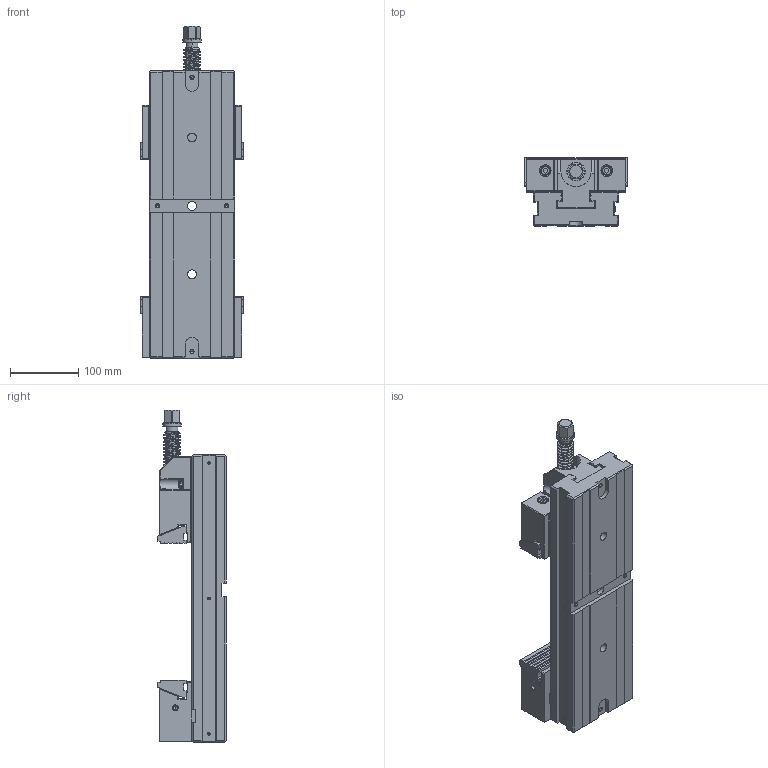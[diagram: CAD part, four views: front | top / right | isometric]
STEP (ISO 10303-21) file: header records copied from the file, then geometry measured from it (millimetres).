
FILE_DESCRIPTION((''),'2;1');
FILE_NAME('FG_VC_MODUL_MV200NP001_ASM','2026-02-26T16:22:47',('Admin'),(''),'CREO PARAMETRIC BY PTC INC, 2025010','CREO PARAMETRIC BY PTC INC, 2025010','');
FILE_SCHEMA(('CONFIG_CONTROL_DESIGN'));
Length unit declared in the file: millimetre
Products named in the file (7): VICE_BODY; MV-LP-150-300; DIN7991-M3X20-12_9; FIX_JAW_MV-150; ISO4762-M12X50-12_9; MOVABLE_JAW_MV200; FG_VC_MODUL_MV200NP001_ASM
Assembly tree (12 placements, depth 2):
  FG_VC_MODUL_MV200NP001_ASM
    VICE_BODY
    MV-LP-150-300  x2
    DIN7991-M3X20-12_9  x3
    FIX_JAW_MV-150
    ISO4762-M12X50-12_9  x4
    MOVABLE_JAW_MV200
Bounding box: 150 x 99.5 x 485.53 mm (x, y, z)
Volume: 3279846.7 mm3; surface area: 481363.3 mm2
Topology: 15 solids, 52 shells, 1357 faces, 3387 edges, 2076 vertices
Faces by surface type: plane 632, cylinder 417, cone 210, bspline 49, torus 34, sphere 15
Entity records: 46010 total; most frequent: CARTESIAN_POINT 16607, DIRECTION 6030, ORIENTED_EDGE 5966, EDGE_CURVE 3039, AXIS2_PLACEMENT_3D 2065, VERTEX_POINT 1914, VECTOR 1900, LINE 1900
